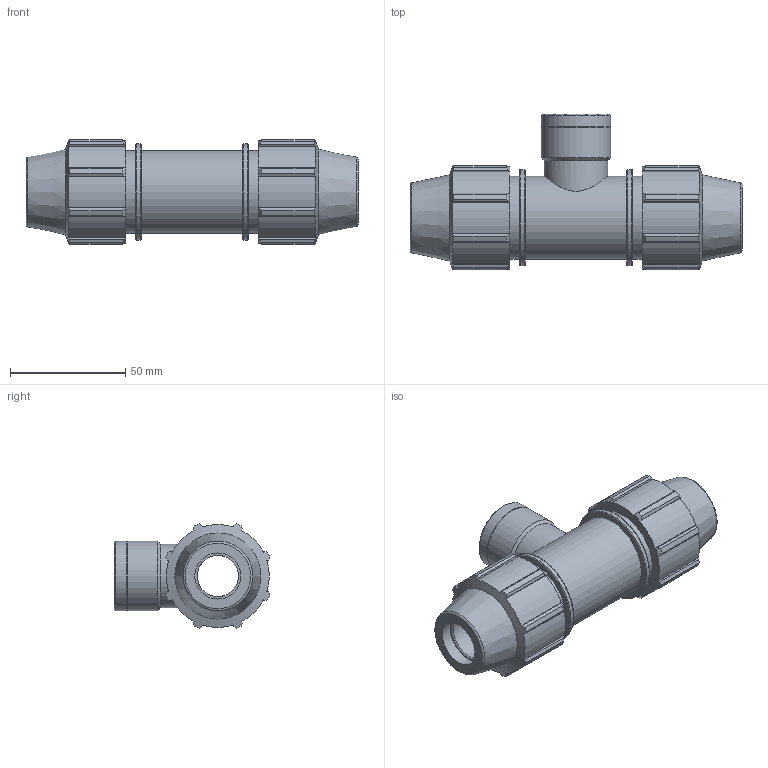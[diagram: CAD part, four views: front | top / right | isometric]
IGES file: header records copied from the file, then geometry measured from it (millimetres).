
Global section: file name: 071400020007_181400020007_0714060200070A.ipt; native system: Autodesk Inventor 2015; preprocessor: unknown; author: KIM; date: 20170606.172143; units: millimetre
Bounding box: 144 x 67.58 x 45.16 mm (x, y, z)
Volume: 136090.3 mm3; surface area: 36520.3 mm2
Topology: 1 solids, 1 shells, 157 faces, 443 edges, 299 vertices
Faces by surface type: plane 79, cylinder 40, cone 23, revolution 15
Full cylindrical faces by diameter (mm): 27.735 x1, 30.146 x2, 36 x3, 41.76 x2
